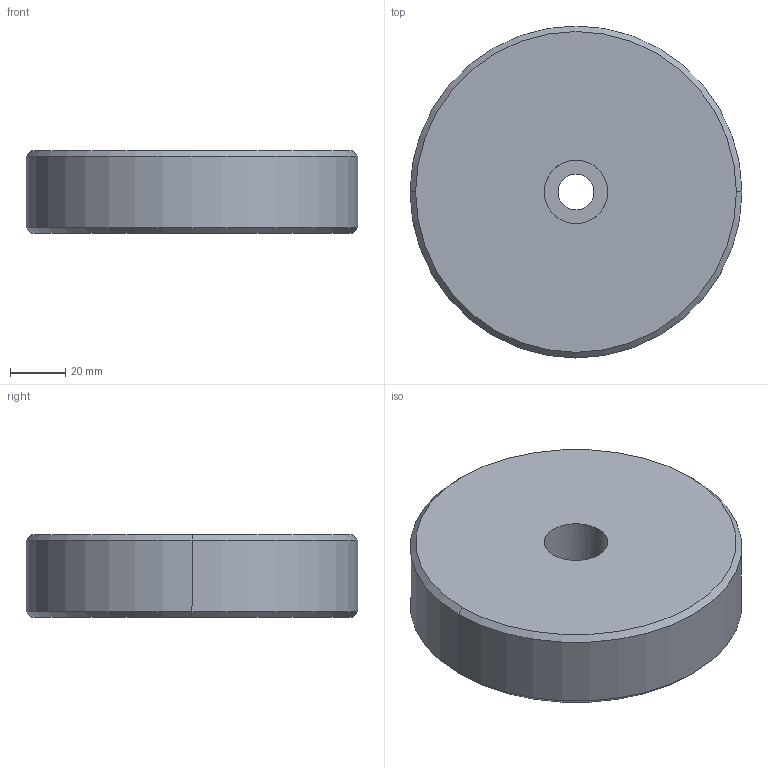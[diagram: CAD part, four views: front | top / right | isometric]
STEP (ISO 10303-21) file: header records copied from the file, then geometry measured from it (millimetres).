
FILE_DESCRIPTION(('CATIA V5 STEP Exchange'),'2;1');
FILE_NAME('C:\Users\Utente\Desktop\IO LAVORO\3D X SITO CF\X 3D SITO CF 27-09-2020\703\703.6.stp','2020-10-25T12:44:07+00:00',('none'),('none'),'CATIA Version 5 Release 20 GA (IN-10)','CATIA V5 STEP AP203','none');
FILE_SCHEMA(('CONFIG_CONTROL_DESIGN'));
Length unit declared in the file: millimetre
Products named in the file (1): 703.6
Bounding box: 120 x 120 x 30 mm (x, y, z)
Volume: 328729.4 mm3; surface area: 34560.7 mm2
Topology: 1 solids, 1 shells, 13 faces, 26 edges, 16 vertices
Faces by surface type: cylinder 6, cone 4, plane 3
Entity records: 416 total; most frequent: CARTESIAN_POINT 102, ORIENTED_EDGE 52, DIRECTION 50, AXIS2_PLACEMENT_3D 28, EDGE_CURVE 26, EDGE_LOOP 16, VERTEX_POINT 16, CIRCLE 14
